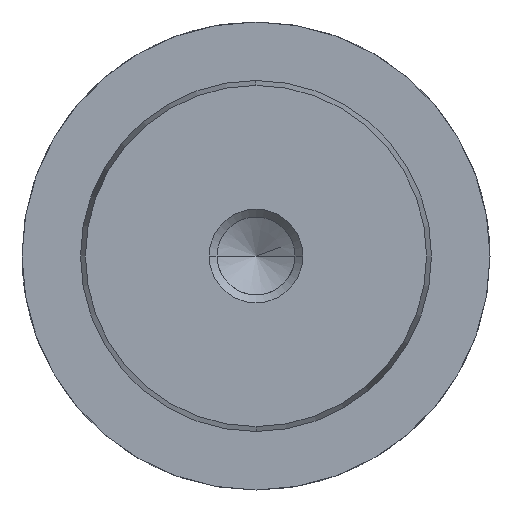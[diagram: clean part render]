
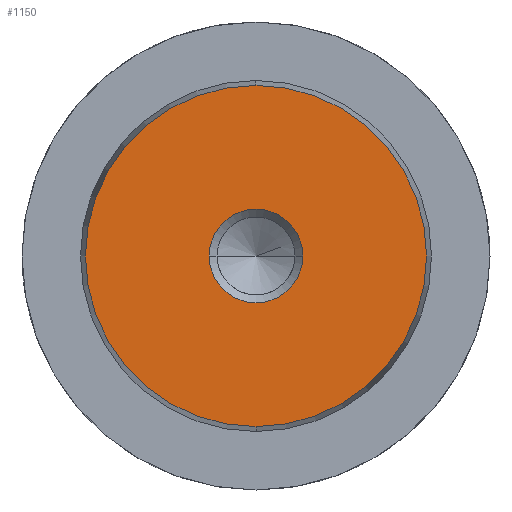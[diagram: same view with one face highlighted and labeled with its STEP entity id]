
A CAD part, left-side view. The second image highlights one B-rep face of the part: STEP entity #1150.
In plain terms, the highlighted planar face has unit normal (-1, 0, 0).
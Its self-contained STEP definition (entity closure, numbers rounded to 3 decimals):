
#1064=CARTESIAN_POINT('Vertex',(0.,0.,-14.578)) ;
#1067=CARTESIAN_POINT('Axis2P3D Location',(0.,0.,0.)) ;
#1071=CARTESIAN_POINT('Vertex',(0.,14.578,0.)) ;
#1074=CARTESIAN_POINT('Axis2P3D Location',(0.,0.,0.)) ;
#1078=CARTESIAN_POINT('Vertex',(0.,0.,14.578)) ;
#1100=CARTESIAN_POINT('Axis2P3D Location',(0.,0.,0.)) ;
#1104=CARTESIAN_POINT('Vertex',(0.,-14.578,0.)) ;
#1107=CARTESIAN_POINT('Axis2P3D Location',(0.,0.,0.)) ;
#1121=CARTESIAN_POINT('Axis2P3D Location',(0.,0.,0.)) ;
#1132=CARTESIAN_POINT('Axis2P3D Location',(0.,0.,0.)) ;
#1136=CARTESIAN_POINT('Vertex',(0.,4.,0.)) ;
#1138=CARTESIAN_POINT('Vertex',(0.,-4.,0.)) ;
#1141=CARTESIAN_POINT('Axis2P3D Location',(0.,0.,0.)) ;
#1068=DIRECTION('Axis2P3D Direction',(1.,0.,-0.)) ;
#1075=DIRECTION('Axis2P3D Direction',(1.,0.,-0.)) ;
#1101=DIRECTION('Axis2P3D Direction',(1.,0.,-0.)) ;
#1108=DIRECTION('Axis2P3D Direction',(1.,0.,-0.)) ;
#1122=DIRECTION('Axis2P3D Direction',(1.,0.,-0.)) ;
#1123=DIRECTION('Axis2P3D XDirection',(-0.,0.,-1.)) ;
#1133=DIRECTION('Axis2P3D Direction',(1.,0.,-0.)) ;
#1142=DIRECTION('Axis2P3D Direction',(1.,0.,-0.)) ;
#1069=AXIS2_PLACEMENT_3D('Circle Axis2P3D',#1067,#1068,$) ;
#1076=AXIS2_PLACEMENT_3D('Circle Axis2P3D',#1074,#1075,$) ;
#1102=AXIS2_PLACEMENT_3D('Circle Axis2P3D',#1100,#1101,$) ;
#1109=AXIS2_PLACEMENT_3D('Circle Axis2P3D',#1107,#1108,$) ;
#1124=AXIS2_PLACEMENT_3D('Plane Axis2P3D',#1121,#1122,#1123) ;
#1134=AXIS2_PLACEMENT_3D('Circle Axis2P3D',#1132,#1133,$) ;
#1143=AXIS2_PLACEMENT_3D('Circle Axis2P3D',#1141,#1142,$) ;
#1127=ORIENTED_EDGE('',*,*,#1073,.F.) ;
#1128=ORIENTED_EDGE('',*,*,#1111,.F.) ;
#1129=ORIENTED_EDGE('',*,*,#1106,.F.) ;
#1130=ORIENTED_EDGE('',*,*,#1080,.F.) ;
#1147=ORIENTED_EDGE('',*,*,#1140,.T.) ;
#1148=ORIENTED_EDGE('',*,*,#1145,.T.) ;
#1149=FACE_BOUND('',#1146,.T.) ;
#1150=ADVANCED_FACE('718-30x112',(#1131,#1149),#1125,.F.) ;
#1070=CIRCLE('generated circle',#1069,14.578) ;
#1077=CIRCLE('generated circle',#1076,14.578) ;
#1103=CIRCLE('generated circle',#1102,14.578) ;
#1110=CIRCLE('generated circle',#1109,14.578) ;
#1135=CIRCLE('generated circle',#1134,4.) ;
#1144=CIRCLE('generated circle',#1143,4.) ;
#1073=EDGE_CURVE('',#1065,#1072,#1070,.T.) ;
#1080=EDGE_CURVE('',#1072,#1079,#1077,.T.) ;
#1106=EDGE_CURVE('',#1079,#1105,#1103,.T.) ;
#1111=EDGE_CURVE('',#1105,#1065,#1110,.T.) ;
#1140=EDGE_CURVE('',#1137,#1139,#1135,.T.) ;
#1145=EDGE_CURVE('',#1139,#1137,#1144,.T.) ;
#1126=EDGE_LOOP('',(#1127,#1128,#1129,#1130)) ;
#1146=EDGE_LOOP('',(#1147,#1148)) ;
#1131=FACE_OUTER_BOUND('',#1126,.T.) ;
#1125=PLANE('Plane',#1124) ;
#1065=VERTEX_POINT('',#1064) ;
#1072=VERTEX_POINT('',#1071) ;
#1079=VERTEX_POINT('',#1078) ;
#1105=VERTEX_POINT('',#1104) ;
#1137=VERTEX_POINT('',#1136) ;
#1139=VERTEX_POINT('',#1138) ;
